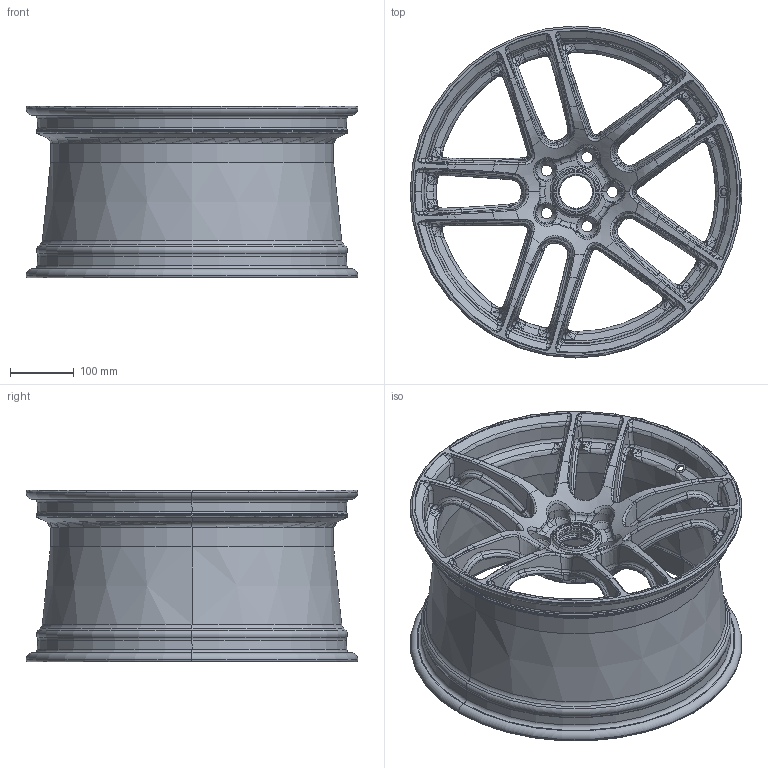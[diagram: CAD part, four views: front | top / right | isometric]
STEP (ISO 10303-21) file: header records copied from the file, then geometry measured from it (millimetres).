
FILE_DESCRIPTION (( 'STEP AP203' ), '1' );
FILE_NAME ('汜莉唳.STEP', '2026-08-19T02:41:32', ( '' ), ( '' ), 'SwSTEP 2.0', 'SolidWorks 2026', '' );
FILE_SCHEMA (( 'CONFIG_CONTROL_DESIGN' ));
Length unit declared in the file: millimetre
Products named in the file (1): 生产版
Bounding box: 522 x 522 x 270 mm (x, y, z)
Volume: 3521788.1 mm3; surface area: 1204592.6 mm2
Topology: 1 solids, 1 shells, 1784 faces, 4467 edges, 2650 vertices
Faces by surface type: bspline 915, torus 295, cone 232, cylinder 175, plane 127, sphere 40
Entity records: 337243 total; most frequent: CARTESIAN_POINT 303018, ORIENTED_EDGE 8874, EDGE_CURVE 4437, DIRECTION 4248, B_SPLINE_CURVE_WITH_KNOTS 2921, VERTEX_POINT 2650, AXIS2_PLACEMENT_3D 1903, EDGE_LOOP 1813
